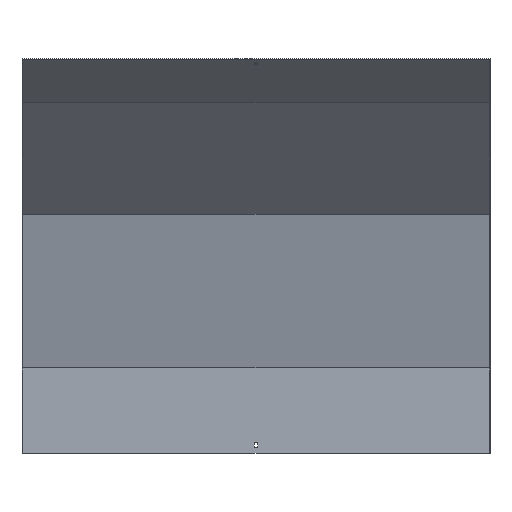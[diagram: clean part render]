
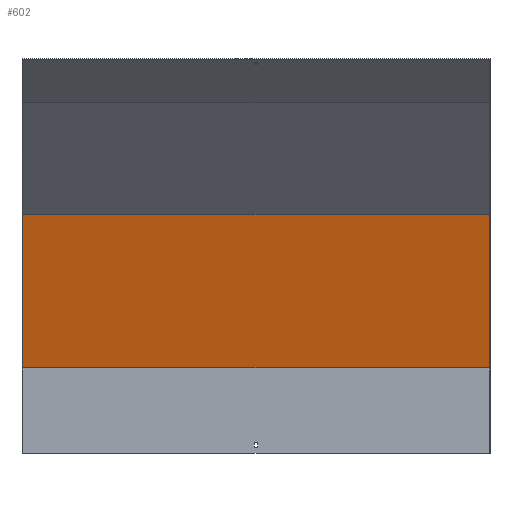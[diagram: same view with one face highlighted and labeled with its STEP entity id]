
A CAD part, front view. The second image highlights one B-rep face of the part: STEP entity #602.
In plain terms, the highlighted planar face has unit normal (0, -0.966, -0.259).
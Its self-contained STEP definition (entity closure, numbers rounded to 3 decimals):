
#14 = EDGE_CURVE ( 'NONE', #362, #737, #772, .T. ) ;
#33 = EDGE_CURVE ( 'NONE', #540, #362, #150, .T. ) ;
#82 = CARTESIAN_POINT ( 'NONE',  ( -450., -60.8, 461.388 ) ) ;
#86 = CARTESIAN_POINT ( 'NONE',  ( -450., 58.62, 15.707 ) ) ;
#114 = FACE_OUTER_BOUND ( 'NONE', #876, .T. ) ;
#150 = LINE ( 'NONE', #169, #902 ) ;
#169 = CARTESIAN_POINT ( 'NONE',  ( 450., 58.62, 15.707 ) ) ;
#185 = VECTOR ( 'NONE', #929, 1000. ) ;
#200 = CARTESIAN_POINT ( 'NONE',  ( 450., 18.5, 165.436 ) ) ;
#278 = PLANE ( 'NONE',  #420 ) ;
#300 = CARTESIAN_POINT ( 'NONE',  ( 451.5, -60.8, 461.388 ) ) ;
#327 = LINE ( 'NONE', #699, #947 ) ;
#330 = ORIENTED_EDGE ( 'NONE', *, *, #14, .T. ) ;
#345 = CARTESIAN_POINT ( 'NONE',  ( 451.5, 17.87, 167.788 ) ) ;
#357 = CARTESIAN_POINT ( 'NONE',  ( 450., -60.8, 461.388 ) ) ;
#362 = VERTEX_POINT ( 'NONE', #357 ) ;
#420 = AXIS2_PLACEMENT_3D ( 'NONE', #345, #954, #805 ) ;
#434 = VECTOR ( 'NONE', #906, 1000. ) ;
#466 = ORIENTED_EDGE ( 'NONE', *, *, #33, .T. ) ;
#467 = EDGE_CURVE ( 'NONE', #540, #631, #327, .T. ) ;
#540 = VERTEX_POINT ( 'NONE', #200 ) ;
#574 = CARTESIAN_POINT ( 'NONE',  ( -450., 18.5, 165.436 ) ) ;
#584 = ORIENTED_EDGE ( 'NONE', *, *, #467, .F. ) ;
#602 = ADVANCED_FACE ( 'NONE', ( #114 ), #278, .T. ) ;
#631 = VERTEX_POINT ( 'NONE', #574 ) ;
#632 = DIRECTION ( 'NONE',  ( -1., 0., 0. ) ) ;
#699 = CARTESIAN_POINT ( 'NONE',  ( 451.5, 18.5, 165.436 ) ) ;
#737 = VERTEX_POINT ( 'NONE', #82 ) ;
#745 = DIRECTION ( 'NONE',  ( 0., -0.259, 0.966 ) ) ;
#772 = LINE ( 'NONE', #300, #185 ) ;
#805 = DIRECTION ( 'NONE',  ( 0., 0.259, -0.966 ) ) ;
#817 = EDGE_CURVE ( 'NONE', #631, #737, #919, .T. ) ;
#876 = EDGE_LOOP ( 'NONE', ( #964, #584, #466, #330 ) ) ;
#902 = VECTOR ( 'NONE', #745, 1000. ) ;
#906 = DIRECTION ( 'NONE',  ( 0., -0.259, 0.966 ) ) ;
#919 = LINE ( 'NONE', #86, #434 ) ;
#929 = DIRECTION ( 'NONE',  ( -1., 0., 0. ) ) ;
#947 = VECTOR ( 'NONE', #632, 1000. ) ;
#954 = DIRECTION ( 'NONE',  ( 0., -0.966, -0.259 ) ) ;
#964 = ORIENTED_EDGE ( 'NONE', *, *, #817, .F. ) ;
